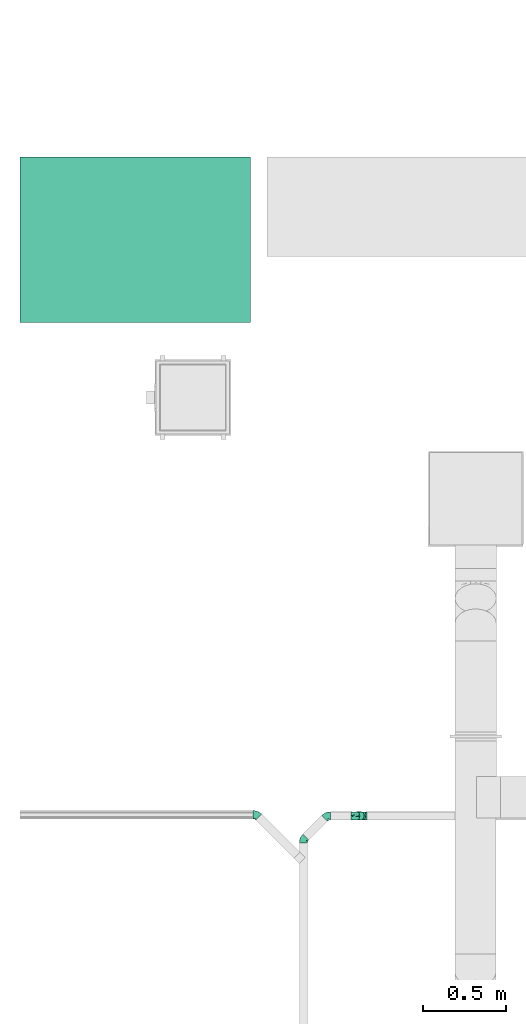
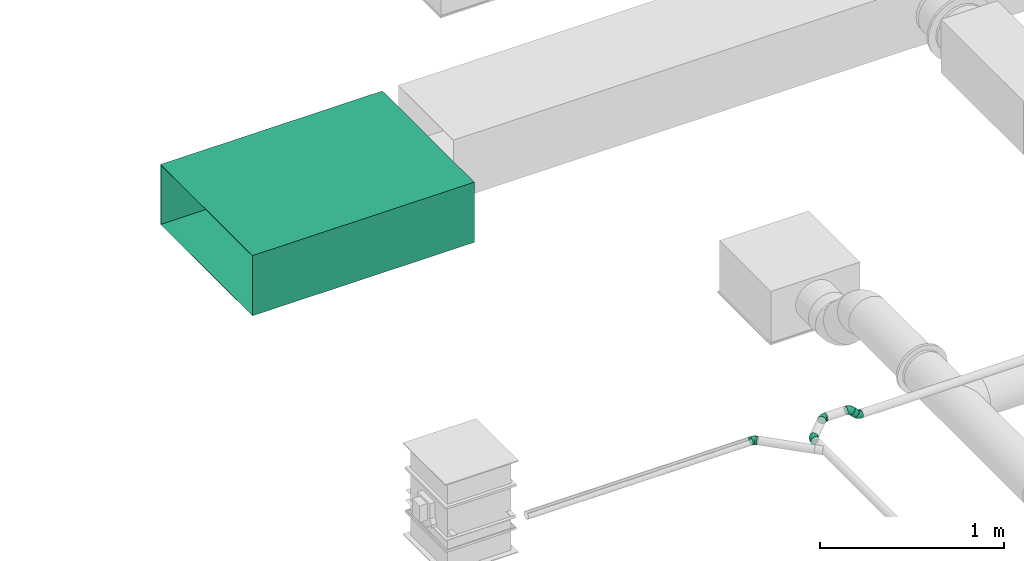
# One storey, part 50 of 63: 5 flow fittings, 2 flow segments.
"""IFC2X3 building model written with IfcOpenShell, lengths in millimetres."""

from ifc_helpers import new_model, entity, si_unit, converted_unit, derived_unit, direction, frame, origin_with_axes, origin_2d_with_axis, place, context, subcontext, project, spatial, hollow_circle, extrude, open_shell, faceted_brep, surface_model, source, transform, mapped, type_object, element, save


model = new_model("IFC2X3")

# Units and contexts
model_context = context("Model", 3, precision=0.01, world=frame((0.0, 4.29681676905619e-09, 0.0)), true_north=direction((4.01073788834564e-13, 1.0)))
plan_context = context("Plan", 3, precision=0.01, world=frame((0.0, 4.29681676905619e-09, 0.0)), true_north=direction((4.01073788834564e-13, 1.0)))
body_context = subcontext(model_context, "Body", "Model", "MODEL_VIEW")
ifc_project = project(units=[converted_unit("PLANEANGLEUNIT", "DEGREE", entity("IfcPositiveLengthMeasure", 0.0174532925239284), si_unit("PLANEANGLEUNIT", "RADIAN"), dimensions=[0, 0, 0, 0, 0, 0, 0]), si_unit("AREAUNIT", "SQUARE_METRE"), si_unit("LENGTHUNIT", "METRE", prefix="MILLI"), si_unit("MASSUNIT", "GRAM", prefix="KILO"), si_unit("POWERUNIT", "WATT"), si_unit("PRESSUREUNIT", "PASCAL"), si_unit("FORCEUNIT", "NEWTON", prefix="KILO"), si_unit("ELECTRICVOLTAGEUNIT", "VOLT"), si_unit("ELECTRICCURRENTUNIT", "AMPERE"), si_unit("THERMODYNAMICTEMPERATUREUNIT", "DEGREE_CELSIUS"), si_unit("TIMEUNIT", "SECOND"), si_unit("VOLUMEUNIT", "CUBIC_METRE"), derived_unit("LINEARVELOCITYUNIT", [(si_unit("LENGTHUNIT", "METRE"), 1), (si_unit("TIMEUNIT", "SECOND"), -1)]), derived_unit("VOLUMETRICFLOWRATEUNIT", [(si_unit("VOLUMEUNIT", "CUBIC_METRE"), 1), (si_unit("TIMEUNIT", "SECOND"), -1)]), derived_unit("THERMALTRANSMITTANCEUNIT", [(si_unit("POWERUNIT", "WATT"), 1), (si_unit("THERMODYNAMICTEMPERATUREUNIT", "KELVIN"), -1), (si_unit("AREAUNIT", "SQUARE_METRE"), -1)]), derived_unit("SOUNDPRESSUREUNIT", [(si_unit("PRESSUREUNIT", "PASCAL"), 1)])], contexts=[model_context, plan_context])

# Site, building, storey
site_placement = place(None, frame((0.0, -4.29681676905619e-09, 0.0), z_axis=(0.0, 0.0, 1.0), x_axis=(1.0, 0.0, 0.0)))
site = spatial("IfcSite", under=ifc_project, at=site_placement, CompositionType="ELEMENT")
building_placement = place(site_placement, frame((0.0, 4.29681676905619e-09, 0.0), z_axis=(0.0, 0.0, 1.0), x_axis=(1.0, 0.0, 0.0)))
building = spatial("IfcBuilding", under=site, at=building_placement, Name="mc-building", CompositionType="ELEMENT")
storey_placement = place(building_placement, frame((0.0, 0.0, 210900.0), z_axis=(0.0, 0.0, 1.0), x_axis=(1.0, 0.0, 0.0)))
storey = spatial("IfcBuildingStorey", under=building, at=storey_placement, Name="Nivå F", CompositionType="ELEMENT", Elevation=210900.0)

# Flow fittings
duct_fitting_type = type_object("IfcDuctFittingType", Name="magicirc_elbow_full_radius_001", PredefinedType="BEND")
shared_shape_1 = source(origin_with_axes(), body_context, "Body", "SurfaceModel", [
    surface_model("IfcShellBasedSurfaceModel", [(-20.71068, 6.47048, -24.14815), (-20.71068, 0.0, -25.0), (-20.71068, 24.14815, -6.47048), (-20.71068, 12.5, -21.65064), (-20.71068, 21.65064, -12.5), (-20.71068, 17.67767, -17.67767), (-20.71068, -17.67767, -17.67767), (-20.71068, -12.5, -21.65064), (-20.71068, -6.47048, -24.14815), (-20.71068, -21.65064, -12.5), (-20.71068, -24.14815, -6.47048), (-20.71068, -12.5, 21.65064), (-20.71068, -25.0, 0.0), (-20.71068, -24.14815, 6.47048), (-20.71068, 24.14815, 6.47048), (-20.71068, 25.0, 0.0), (-20.71068, 6.47048, 24.14815), (-20.71068, 21.65064, 12.5), (-20.71068, 17.67767, 17.67767), (-20.71068, 12.5, 21.65064), (-20.71068, -21.65064, 12.5), (-20.71068, -17.67767, 17.67767), (-20.71068, -6.47048, 24.14815), (-20.71068, 0.0, 25.0), (-2.43066, 31.71998, -6.47048), (14.64466, 14.64466, -25.0), (10.06934, 19.21998, -24.14815), (5.80583, 23.4835, -21.65064), (2.14466, 27.14466, -17.67767), (-0.66465, 29.95397, -12.5), (31.71998, -2.43066, -6.47048), (19.21998, 10.06934, -24.14815), (27.14466, 2.14466, -17.67767), (23.4835, 5.80583, -21.65064), (29.95397, -0.66465, -12.5), (31.71998, -2.43066, 6.47048), (32.32233, -3.03301, 0.0), (-3.03301, 32.32233, 0.0), (-2.43066, 31.71998, 6.47048), (23.4835, 5.80583, 21.65064), (10.06934, 19.21998, 24.14815), (-0.66465, 29.95397, 12.5), (2.14466, 27.14466, 17.67767), (5.80583, 23.4835, 21.65064), (27.14466, 2.14466, 17.67767), (29.95397, -0.66465, 12.5), (19.21998, 10.06934, 24.14815), (14.64466, 14.64466, 25.0), (-9.90594, -9.16729, 22.84872), (-5.53086, -14.12942, 19.29098), (2.56694, -6.19714, 22.53372), (-8.0728, -19.12027, 14.63846), (19.2284, -7.81174, 14.63846), (-7.46138, -2.40706, 24.66879), (-9.60579, 10.40318, 23.37148), (-2.37784, 5.74061, 24.91215), (-12.52615, 3.46428, 24.84829), (0.74206, 15.02947, 23.33394), (4.51942, 11.83388, 24.63638), (6.36735, -15.37213, 13.93174), (13.48681, 0.5223, 22.84872), (-10.29888, 24.86369, 10.27108), (-11.02493, 20.96619, 15.77668), (-7.1013, 17.14405, 20.41013), (2.15218, -21.0168, 4.41941), (11.42886, -17.32864, 4.41941), (7.39264, -17.84741, 8.69962), (-6.36005, -22.14548, 0.0), (-7.04491, -23.31893, 4.55451), (24.09339, -9.5634, 4.80838), (18.46353, -12.1242, 8.68186), (-10.01361, 26.7882, 5.2528), (-4.48258, -21.62879, 8.68186), (6.97804, 3.57394, 24.66879), (13.90192, -6.0801, 19.29098), (7.99058, -19.29096, 0.0), (20.15645, -11.16199, 0.0), (-11.14359, 26.90301, 0.0), (4.1962, -10.13052, 19.93611), (-7.46138, -2.40706, -24.66879), (13.33931, -16.38294, -4.41941), (4.17178, -20.33463, -4.41941), (7.39264, -17.84741, -8.69961), (6.97804, 3.57394, -24.66879), (-11.15216, 10.10272, -23.33394), (-11.56353, 5.1721, -24.63638), (-7.02953, 22.62114, -15.77668), (13.90192, -6.0801, -19.29098), (-10.29888, 24.86369, -10.27108), (18.46353, -12.1242, -8.68186), (-11.86143, 26.02281, -5.2528), (-0.56384, 14.14848, -23.37148), (-10.27426, -23.79894, -4.80838), (-4.48258, -21.62879, -8.68186), (6.36735, -15.37213, -13.93174), (19.2284, -7.81174, -14.63846), (-8.0728, -19.12027, -14.63846), (-5.53086, -14.12942, -19.29098), (4.1962, -10.13052, -19.93611), (-9.90594, -9.16729, -22.84872), (2.56694, -6.19714, -22.53372), (13.48681, 0.5223, -22.84872), (-2.37784, 5.74061, -24.91215), (-7.1013, 17.14405, -20.41013), (21.47048, -11.50747, -4.55451), (6.40771, 11.30694, -24.84829)], [open_shell([[[0, 1, 2]], [[3, 0, 2]], [[2, 4, 5]], [[3, 2, 5]], [[6, 2, 1]], [[7, 6, 8]], [[6, 1, 8]], [[9, 10, 6]], [[11, 6, 10]], [[10, 12, 13]], [[2, 6, 11]], [[14, 15, 16]], [[17, 14, 18]], [[14, 16, 19]], [[18, 14, 19]], [[11, 16, 15]], [[20, 21, 13]], [[11, 13, 21]], [[10, 13, 11]], [[11, 22, 16]], [[22, 23, 16]], [[15, 2, 11]], [[24, 25, 26]], [[24, 26, 27]], [[28, 29, 24]], [[28, 24, 27]], [[25, 24, 30]], [[31, 32, 33]], [[31, 25, 32]], [[32, 30, 34]], [[25, 30, 32]], [[30, 35, 36]], [[30, 24, 37]], [[38, 39, 37]], [[40, 38, 41]], [[42, 43, 40]], [[42, 40, 41]], [[39, 38, 40]], [[35, 44, 45]], [[35, 30, 44]], [[44, 30, 39]], [[40, 46, 39]], [[40, 47, 46]], [[39, 30, 37]], [[48, 49, 50]], [[21, 51, 49]], [[11, 21, 49]], [[45, 44, 52]], [[23, 22, 53]], [[22, 11, 48]], [[19, 16, 54]], [[55, 56, 53]], [[23, 56, 16]], [[40, 57, 58]], [[49, 51, 59]], [[39, 46, 60]], [[61, 17, 62]], [[63, 18, 19]], [[64, 65, 66]], [[67, 64, 68]], [[69, 35, 70]], [[61, 71, 14]], [[20, 13, 72]], [[15, 14, 71]], [[14, 17, 61]], [[21, 20, 51]], [[54, 63, 19]], [[72, 66, 59]], [[12, 67, 68]], [[43, 42, 63]], [[47, 58, 73]], [[44, 39, 74]], [[41, 38, 61]], [[73, 46, 47]], [[64, 67, 75]], [[44, 74, 52]], [[55, 58, 57]], [[74, 39, 60]], [[20, 72, 51]], [[76, 69, 65]], [[35, 69, 36]], [[56, 54, 16]], [[71, 61, 38]], [[77, 71, 37]], [[52, 59, 70]], [[49, 78, 50]], [[50, 73, 53]], [[40, 43, 57]], [[50, 60, 73]], [[61, 62, 41]], [[55, 53, 73]], [[42, 41, 62]], [[63, 54, 57]], [[48, 53, 22]], [[17, 18, 62]], [[35, 45, 70]], [[59, 51, 72]], [[78, 59, 74]], [[59, 52, 74]], [[70, 45, 52]], [[18, 63, 62]], [[42, 62, 63]], [[63, 57, 43]], [[55, 57, 54]], [[49, 48, 11]], [[53, 48, 50]], [[73, 60, 46]], [[74, 60, 50]], [[73, 58, 55]], [[47, 40, 58]], [[53, 56, 23]], [[54, 56, 55]], [[64, 66, 72]], [[70, 59, 66]], [[64, 72, 68]], [[65, 64, 75]], [[76, 65, 75]], [[70, 66, 65]], [[72, 13, 68]], [[12, 68, 13]], [[59, 78, 49]], [[74, 50, 78]], [[37, 71, 38]], [[71, 77, 15]], [[65, 69, 70]], [[36, 69, 76]], [[8, 1, 79]], [[80, 81, 82]], [[25, 31, 83]], [[84, 85, 0]], [[4, 86, 5]], [[33, 32, 87]], [[88, 86, 4]], [[34, 30, 89]], [[2, 90, 88]], [[27, 26, 91]], [[92, 10, 93]], [[3, 84, 0]], [[67, 92, 81]], [[94, 95, 89]], [[10, 92, 12]], [[96, 6, 97]], [[6, 7, 97]], [[98, 94, 97]], [[10, 9, 93]], [[6, 96, 9]], [[99, 7, 8]], [[96, 94, 93]], [[100, 79, 83]], [[101, 83, 31]], [[15, 77, 90]], [[80, 76, 75]], [[37, 24, 90]], [[102, 83, 79]], [[28, 27, 103]], [[88, 4, 2]], [[29, 86, 88]], [[99, 97, 7]], [[91, 103, 27]], [[85, 79, 1]], [[103, 91, 84]], [[5, 103, 3]], [[76, 80, 104]], [[25, 105, 26]], [[101, 31, 33]], [[89, 82, 94]], [[32, 34, 95]], [[87, 100, 101]], [[87, 95, 94]], [[100, 99, 79]], [[36, 76, 104]], [[29, 28, 86]], [[105, 91, 26]], [[95, 87, 32]], [[87, 98, 100]], [[105, 83, 102]], [[102, 85, 84]], [[24, 88, 90]], [[34, 89, 95]], [[24, 29, 88]], [[94, 96, 97]], [[93, 9, 96]], [[28, 103, 86]], [[5, 86, 103]], [[103, 84, 3]], [[102, 84, 91]], [[79, 99, 8]], [[97, 99, 100]], [[87, 101, 33]], [[83, 101, 100]], [[79, 85, 102]], [[1, 0, 85]], [[83, 105, 25]], [[91, 105, 102]], [[80, 82, 89]], [[93, 94, 82]], [[80, 89, 104]], [[81, 80, 75]], [[67, 81, 75]], [[93, 82, 81]], [[89, 30, 104]], [[36, 104, 30]], [[94, 98, 87]], [[97, 100, 98]], [[15, 90, 2]], [[90, 77, 37]], [[81, 92, 93]], [[12, 92, 67]]])]),
])
for number, where, z_axis, x_axis, name in (
    (1, (522260.0, 452339.84316, 4480.0), (0.0, 0.0, 1.0), (-0.707106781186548, -0.707106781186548, 0.0), "magicirc_elbow_full_radius_001"),
    (2, (522402.58325, 452482.42641, 4480.0), (0.0, 0.0, 1.0), (-1.0, 0.0, 0.0), "magicirc_elbow_full_radius_001"),
    (3, (521975.74559, 452490.0, 4480.0), (0.0, 0.0, 1.0), (-0.707106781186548, 0.707106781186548, 0.0), "magicirc_elbow_full_radius_001"),
    (4, (522569.01393, 452482.42641, 4480.0), (0.0, 1.0, 0.0), (1.0, 0.0, 0.0), "magicirc_elbow_full_radius_001"),
    (5, (522624.01393, 452482.42641, 4425.0), (0.0, -1.0, 0.0), (0.707106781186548, 0.0, -0.707106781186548), "magicirc_elbow_full_radius_001"),
):
    element("IfcFlowFitting", number, at=place(storey_placement, frame(where, z_axis=z_axis, x_axis=x_axis)), inside=storey, type_object=duct_fitting_type, Name=name, context=body_context, shape_type="MappedRepresentation", body=[
        mapped(shared_shape_1, transform((0.0, 0.0, 0.0), scale=1.0)),
    ])

# Flow segments
duct_segment_type_1 = type_object("IfcDuctSegmentType", Name="Sirkulær kanal", PredefinedType="RIGIDSEGMENT")
shared_shape_2 = source(origin_with_axes(), body_context, "Body", "SweptSolid", [
    extrude(hollow_circle(Radius=25.0, WallThickness=2.0, at=origin_2d_with_axis()), frame((0.0, 0.0, 0.0), z_axis=(1.0, 0.0, 0.0), x_axis=(0.0, 1.0, 0.0)), (0.0, 0.0, 1.0), 36.4),
])
flow_segment_1_placement = place(storey_placement, frame((522583.65859, 452482.42641, 4465.35534000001), z_axis=(-0.707106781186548, 0.0, -0.707106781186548), x_axis=(0.707106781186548, 0.0, -0.707106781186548)))
element("IfcFlowSegment", 6, at=flow_segment_1_placement, inside=storey, type_object=duct_segment_type_1, Name="Sirkulær kanal", context=body_context, shape_type="MappedRepresentation", body=[
    mapped(shared_shape_2, transform((0.0, 0.0, 0.0), scale=1.0)),
])
duct_segment_type_2 = type_object("IfcDuctSegmentType", Name="Rectangular duct", PredefinedType="RIGIDSEGMENT")
flow_segment_2_placement = place(storey_placement, frame((520110.5682, 455969.0, 4198.20000000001), z_axis=(0.0, 0.0, 1.0), x_axis=(1.0, 0.0, 0.0)))
element("IfcFlowSegment", 7, at=flow_segment_2_placement, inside=storey, type_object=duct_segment_type_2, Name="Rectangular duct", context=body_context, shape_type="Brep", body=[
    faceted_brep([(434.419300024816, -498.0, -198.0), (434.419300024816, 498.0, -198.0), (1828.0, 498.0, -198.0), (1828.0, -498.0, -198.0), (434.419300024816, -498.0, 198.0), (1828.0, -498.0, 198.0), (434.419300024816, 498.0, 198.0), (1828.0, 498.0, 198.0), (434.419300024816, 500.0, -200.0), (434.419300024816, -500.0, -200.0), (1828.0, -500.0, -200.0), (1828.0, 500.0, -200.0), (434.419300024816, 500.0, 200.0), (1828.0, 500.0, 200.0), (434.419300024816, -500.0, 200.0), (1828.0, -500.0, 200.0)], [[[0, 1, 2, 3]], [[4, 0, 3, 5]], [[6, 4, 5, 7]], [[1, 6, 7, 2]], [[8, 9, 10, 11]], [[12, 8, 11, 13]], [[14, 12, 13, 15]], [[9, 14, 15, 10]], [[11, 10, 15, 13], [2, 7, 5, 3]], [[12, 14, 9, 8], [4, 6, 1, 0]]], orient=[[False], [False], [False], [False], [False], [False], [False], [False], [False, False], [False, False]]),
])

save(model, "model.ifc")
